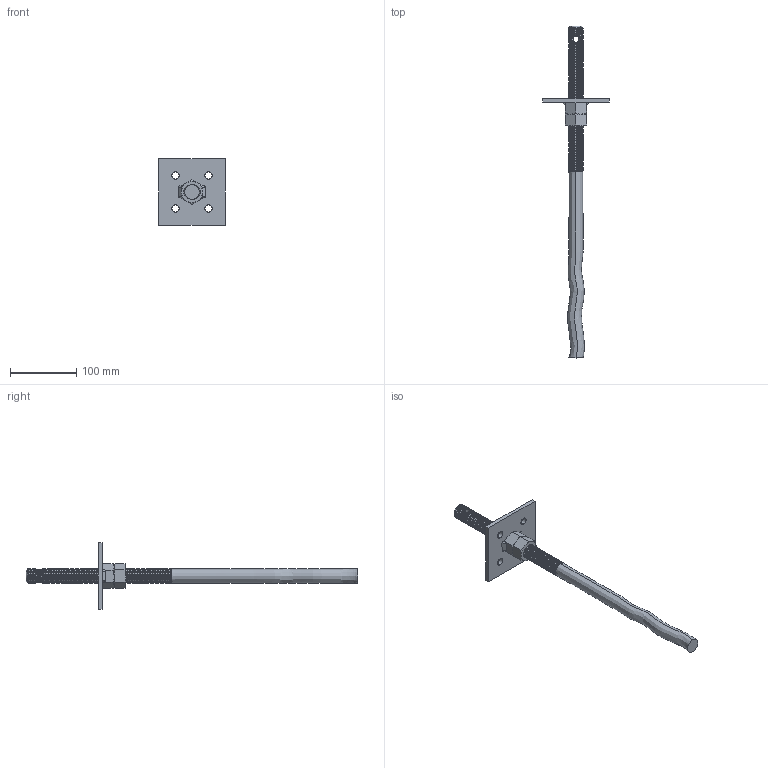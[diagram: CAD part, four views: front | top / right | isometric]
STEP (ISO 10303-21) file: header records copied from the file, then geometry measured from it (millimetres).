
FILE_DESCRIPTION (( 'STEP AP203' ), '1' );
FILE_NAME ('19621100.STEP', '2021-04-20T08:58:16', ( '' ), ( '' ), 'SwSTEP 2.0', 'SolidWorks 2013', '' );
FILE_SCHEMA (( 'CONFIG_CONTROL_DESIGN' ));
Length unit declared in the file: millimetre
Products named in the file (3): 19621080; 19621100; 100x100x6-4xd11-1xd23
Assembly tree (2 placements, depth 2):
  19621100
    19621080
    100x100x6-4xd11-1xd23
Bounding box: 100 x 502.97 x 100 mm (x, y, z)
Volume: 254528.2 mm3; surface area: 76066.6 mm2
Topology: 7 solids, 7 shells, 305 faces, 853 edges, 560 vertices
Faces by surface type: cylinder 197, bspline 46, plane 36, cone 26
Entity records: 92957 total; most frequent: CARTESIAN_POINT 86390, ORIENTED_EDGE 1706, DIRECTION 883, EDGE_CURVE 853, VERTEX_POINT 560, AXIS2_PLACEMENT_3D 326, EDGE_LOOP 319, ADVANCED_FACE 305
